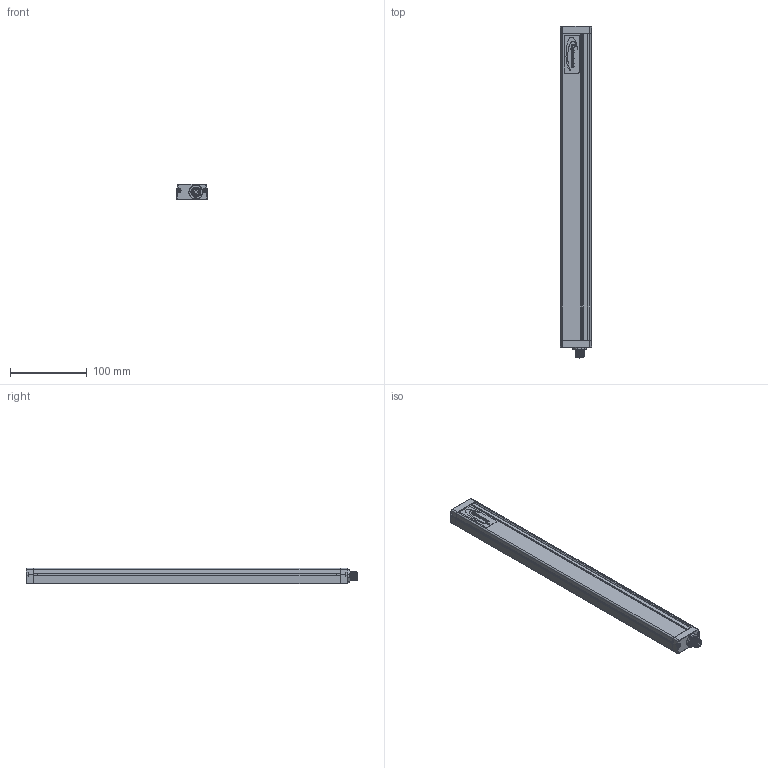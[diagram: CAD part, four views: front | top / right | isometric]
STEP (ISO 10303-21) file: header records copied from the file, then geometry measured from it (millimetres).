
FILE_DESCRIPTION(/* description */ (''),/* implementation_level */ '2;1');
FILE_NAME(/* name */ 'C:\Users\andre\SynologyDrive\Optoscan\Libreria Componenti\00 - Barriere\Barriera sorgente\Argo_400_RX.stp',/* time_stamp */ '2021-04-22T11:53:20+02:00',/* author */ ('andre'),/* organization */ (''),/* preprocessor_version */ 'ST-DEVELOPER v18',/* originating_system */ 'Autodesk Inventor 2020',/* authorisation */ '');
FILE_SCHEMA (('AUTOMOTIVE_DESIGN { 1 0 10303 214 3 1 1 }'));
Length unit declared in the file: millimetre
Products named in the file (1): Argo_400_RX
Bounding box: 40.5 x 433.3 x 20.75 mm (x, y, z)
Volume: 89334.3 mm3; surface area: 113493.3 mm2
Topology: 1 solids, 1 shells, 692 faces, 1898 edges, 1217 vertices
Faces by surface type: plane 319, cylinder 195, bspline 94, torus 70, cone 8, sphere 6
Full cylindrical faces by diameter (mm): 1 x4, 2.459 x4, 2.5 x4, 3 x4, 3.5 x4, 5.5 x4, 8 x1, 10.5 x2, 11.75 x9, 15.7 x1, 17.5 x1
Entity records: 28165 total; most frequent: CARTESIAN_POINT 10195, ORIENTED_EDGE 3778, DIRECTION 3387, EDGE_CURVE 1889, VERTEX_POINT 1217, AXIS2_PLACEMENT_3D 1183, LINE 1021, VECTOR 1021
